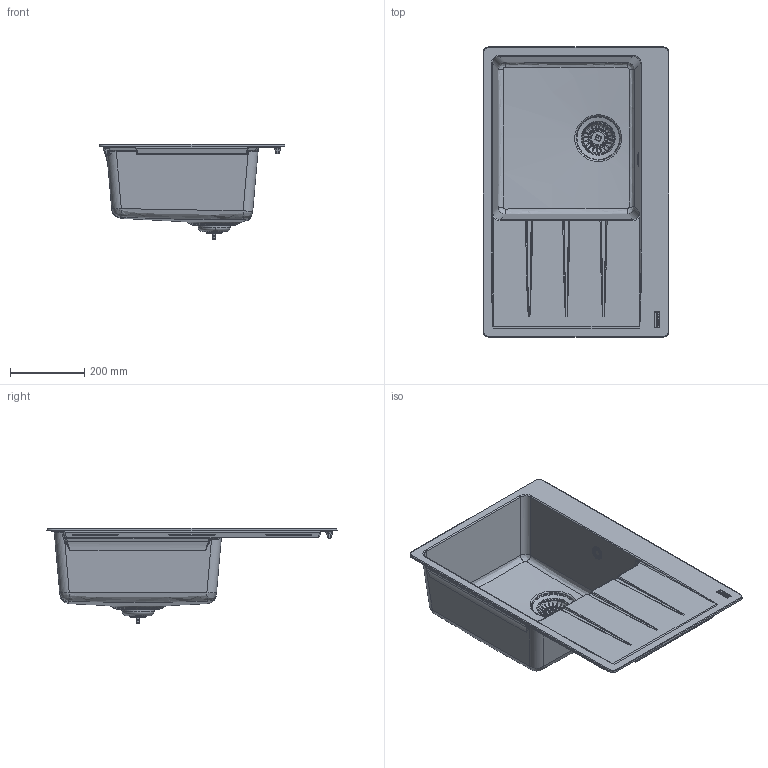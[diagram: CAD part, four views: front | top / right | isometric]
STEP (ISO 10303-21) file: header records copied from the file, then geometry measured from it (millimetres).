
FILE_DESCRIPTION(/* description */ (''),/* implementation_level */ '2;1');
FILE_NAME(/* name */ '3D001_Sinks_Centro_CNG-611-78-RHD',/* time_stamp */ '2024-03-14T11:56:59+01:00',/* author */ (''),/* organization */ (''),/* preprocessor_version */ 'ST-DEVELOPER v19.2',/* originating_system */ 'Rhino 8.4',/* authorisation */ '');
FILE_SCHEMA (('CONFIG_CONTROL_DESIGN'));
Length unit declared in the file: millimetre
Products named in the file (1): Document
Bounding box: 500 x 780 x 256.38 mm (x, y, z)
Volume: 5026576.5 mm3; surface area: 1420398.6 mm2
Topology: 17 solids, 18 shells, 1889 faces, 5015 edges, 3120 vertices
Faces by surface type: bspline 804, plane 571, cylinder 514
Full cylindrical faces by diameter (mm): 3.242 x1, 4 x1, 4.5 x1, 4.7 x1, 4.85 x1, 5.2 x1, 5.25 x1, 5.85 x2, 6 x1, 6.2 x1, 8 x1, 8.25 x1, 12.6 x1, 13.743 x1, 14.3 x1, 17.853 x1, 28 x7, 31 x1, 33 x2, 36 x1, 36.5 x1, 38 x5, 42 x5, 47 x1, 84 x1
Entity records: 103694 total; most frequent: CARTESIAN_POINT 60662, ORIENTED_EDGE 9924, DIRECTION 5003, EDGE_CURVE 4964, VERTEX_POINT 3120, AXIS2_PLACEMENT_3D 3044, B_SPLINE_CURVE_WITH_KNOTS 2826, EDGE_LOOP 1989
